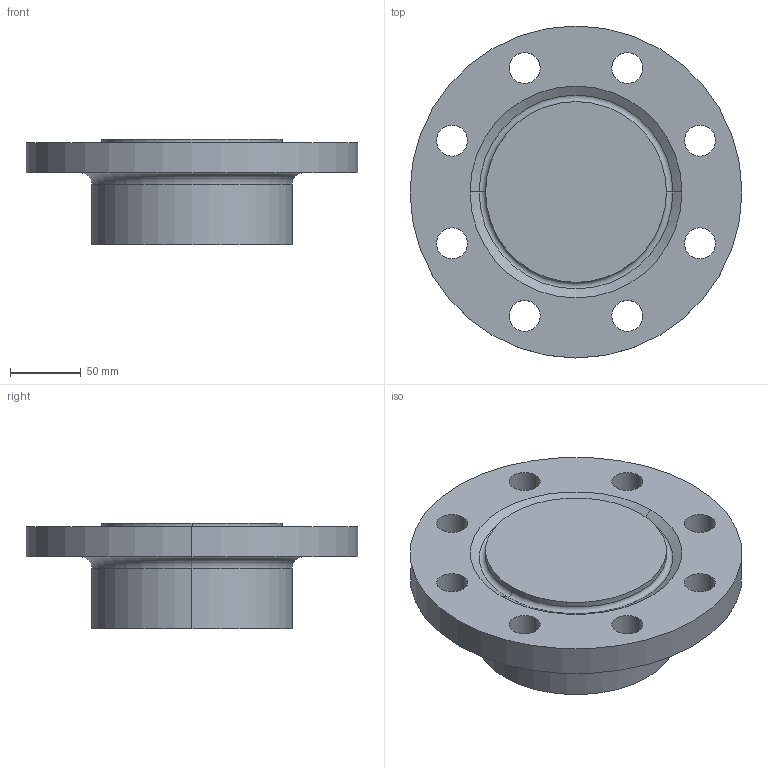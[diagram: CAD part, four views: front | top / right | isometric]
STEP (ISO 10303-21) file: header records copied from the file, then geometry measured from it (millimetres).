
FILE_DESCRIPTION (( 'STEP AP214' ), '1' );
FILE_NAME ('PN40 DN100 Type 21(i) - Type H Face.STEP', '2019-01-02T00:14:38', ( '' ), ( '' ), 'SwSTEP 2.0', 'SolidWorks 2019', '' );
FILE_SCHEMA (( 'AUTOMOTIVE_DESIGN' ));
Length unit declared in the file: millimetre
Products named in the file (1): PN40 DN100 Type 21(i) - Type H Face
Bounding box: 235 x 235 x 75 mm (x, y, z)
Volume: 1699797.7 mm3; surface area: 132539.1 mm2
Topology: 1 solids, 1 shells, 32 faces, 78 edges, 50 vertices
Faces by surface type: cylinder 22, torus 4, plane 4, cone 2
Entity records: 1034 total; most frequent: DIRECTION 198, CARTESIAN_POINT 161, ORIENTED_EDGE 156, AXIS2_PLACEMENT_3D 87, EDGE_CURVE 78, CIRCLE 54, VERTEX_POINT 50, EDGE_LOOP 50
